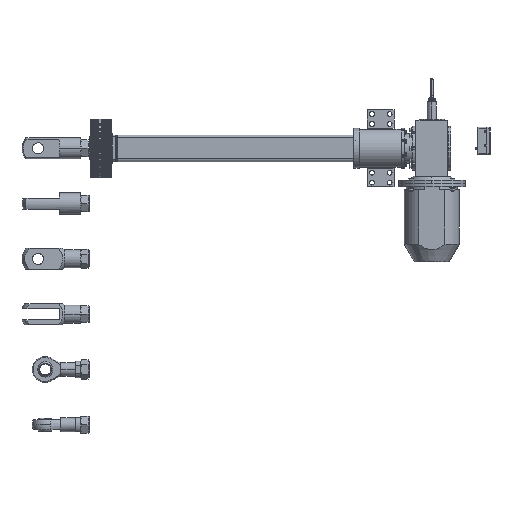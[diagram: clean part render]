
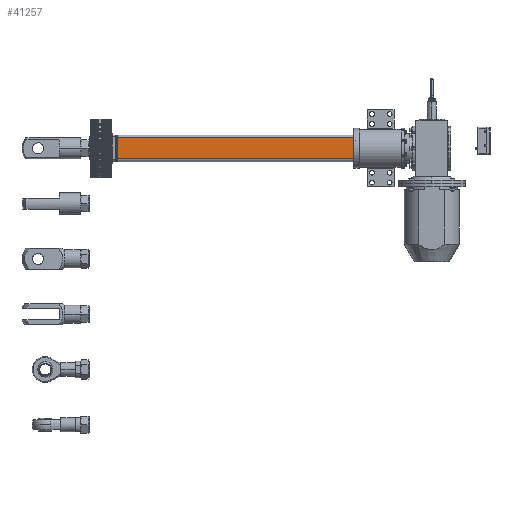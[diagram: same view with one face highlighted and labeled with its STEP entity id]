
A CAD part, front view. The second image highlights one B-rep face of the part: STEP entity #41257.
In plain terms, the highlighted planar face has unit normal (0, -1, 0).
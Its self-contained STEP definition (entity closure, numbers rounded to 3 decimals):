
#1444 = CARTESIAN_POINT ( 'NONE',  ( 1080., -60., 48. ) ) ;
#1450 = PLANE ( 'NONE',  #47490 ) ;
#1453 = DIRECTION ( 'NONE',  ( 0., 1., 0. ) ) ;
#1454 = DIRECTION ( 'NONE',  ( 0., 0., 1. ) ) ;
#9257 = LINE ( 'NONE', #10337, #9261 ) ;
#9261 = VECTOR ( 'NONE', #10338, 1000. ) ;
#9364 = VECTOR ( 'NONE', #10520, 1000. ) ;
#9368 = LINE ( 'NONE', #10519, #9364 ) ;
#9370 = VECTOR ( 'NONE', #10527, 1000. ) ;
#9372 = LINE ( 'NONE', #10526, #9370 ) ;
#9373 = VECTOR ( 'NONE', #10533, 1000. ) ;
#9375 = LINE ( 'NONE', #10532, #9373 ) ;
#10337 = CARTESIAN_POINT ( 'NONE',  ( 1080., -60., 48. ) ) ;
#10338 = DIRECTION ( 'NONE',  ( 0., 0., -1. ) ) ;
#10519 = CARTESIAN_POINT ( 'NONE',  ( 1080., -60., 48. ) ) ;
#10520 = DIRECTION ( 'NONE',  ( -1., 0., 0. ) ) ;
#10526 = CARTESIAN_POINT ( 'NONE',  ( 2., -60., 48. ) ) ;
#10527 = DIRECTION ( 'NONE',  ( 0., 0., -1. ) ) ;
#10532 = CARTESIAN_POINT ( 'NONE',  ( 1080., -60., -48. ) ) ;
#10533 = DIRECTION ( 'NONE',  ( -1., 0., 0. ) ) ;
#33771 = ORIENTED_EDGE ( 'NONE', *, *, #43861, .T. ) ;
#33772 = ORIENTED_EDGE ( 'NONE', *, *, #43863, .T. ) ;
#33773 = ORIENTED_EDGE ( 'NONE', *, *, #43865, .F. ) ;
#33774 = ORIENTED_EDGE ( 'NONE', *, *, #43797, .F. ) ;
#34399 = VERTEX_POINT ( 'NONE', #61091 ) ;
#34441 = VERTEX_POINT ( 'NONE', #61115 ) ;
#34470 = VERTEX_POINT ( 'NONE', #61129 ) ;
#34507 = VERTEX_POINT ( 'NONE', #61143 ) ;
#41257 = ADVANCED_FACE ( 'NONE', ( #51150 ), #1450, .F. ) ;
#43797 = EDGE_CURVE ( 'NONE', #34399, #34441, #9257, .T. ) ;
#43861 = EDGE_CURVE ( 'NONE', #34399, #34507, #9368, .T. ) ;
#43863 = EDGE_CURVE ( 'NONE', #34507, #34470, #9372, .T. ) ;
#43865 = EDGE_CURVE ( 'NONE', #34441, #34470, #9375, .T. ) ;
#47490 = AXIS2_PLACEMENT_3D ( 'NONE', #1444, #1453, #1454 ) ;
#51150 = FACE_OUTER_BOUND ( 'NONE', #52508, .T. ) ;
#52508 = EDGE_LOOP ( 'NONE', ( #33771, #33772, #33773, #33774 ) ) ;
#61091 = CARTESIAN_POINT ( 'NONE',  ( 1080., -60., 48. ) ) ;
#61115 = CARTESIAN_POINT ( 'NONE',  ( 1080., -60., -48. ) ) ;
#61129 = CARTESIAN_POINT ( 'NONE',  ( 2., -60., -48. ) ) ;
#61143 = CARTESIAN_POINT ( 'NONE',  ( 2., -60., 48. ) ) ;
